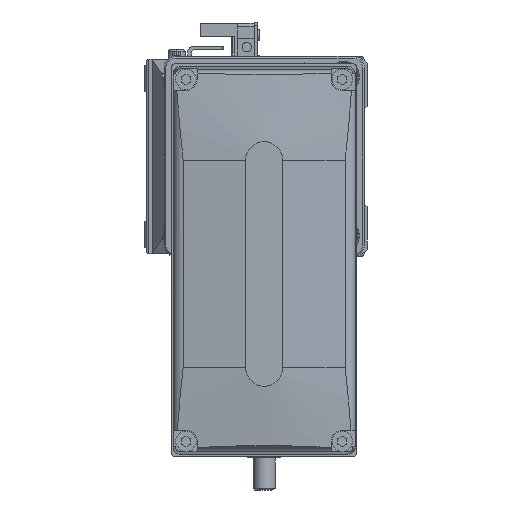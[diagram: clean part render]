
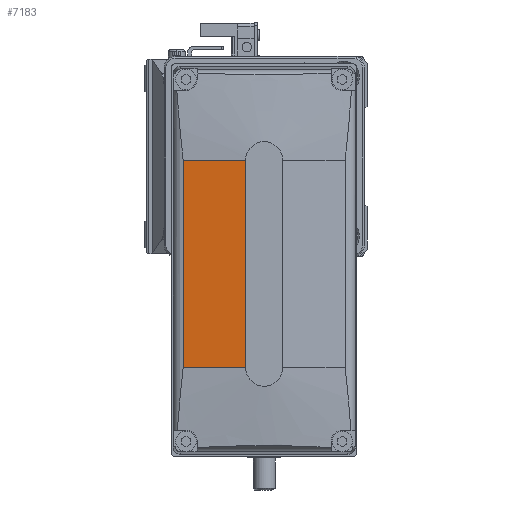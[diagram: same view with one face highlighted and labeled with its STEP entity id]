
A CAD part, left-side view. The second image highlights one B-rep face of the part: STEP entity #7183.
In plain terms, the highlighted planar face has unit normal (-0.996, 0.087, 0) as drawn and (-0.996, 0, -0.087) by its records, which use the part's own axes.
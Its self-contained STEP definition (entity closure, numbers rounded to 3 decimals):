
#446 = CARTESIAN_POINT ( 'NONE',  ( -50., 28., -5. ) ) ;
#723 = VECTOR ( 'NONE', #25677, 1000. ) ;
#874 = VERTEX_POINT ( 'NONE', #5907 ) ;
#1035 = ORIENTED_EDGE ( 'NONE', *, *, #4642, .T. ) ;
#1994 = LINE ( 'NONE', #19103, #36520 ) ;
#2053 = EDGE_CURVE ( 'NONE', #874, #18066, #20660, .T. ) ;
#3019 = CARTESIAN_POINT ( 'NONE',  ( -50., -28., -5. ) ) ;
#4642 = EDGE_CURVE ( 'NONE', #24157, #18066, #6989, .T. ) ;
#4644 = DIRECTION ( 'NONE',  ( 0.087, 0., -0.996 ) ) ;
#5471 = AXIS2_PLACEMENT_3D ( 'NONE', #23461, #15239, #12082 ) ;
#5907 = CARTESIAN_POINT ( 'NONE',  ( -48.525, 28., -21.861 ) ) ;
#6685 = VECTOR ( 'NONE', #33458, 1000. ) ;
#6989 = LINE ( 'NONE', #16797, #22699 ) ;
#7183 = ADVANCED_FACE ( 'NONE', ( #15822 ), #29611, .T. ) ;
#7573 = ORIENTED_EDGE ( 'NONE', *, *, #2053, .F. ) ;
#8346 = LINE ( 'NONE', #10932, #723 ) ;
#10932 = CARTESIAN_POINT ( 'NONE',  ( -48.525, 128., -21.861 ) ) ;
#12082 = DIRECTION ( 'NONE',  ( -0.087, 0., 0.996 ) ) ;
#12856 = EDGE_LOOP ( 'NONE', ( #7573, #18910, #19030, #1035 ) ) ;
#15239 = DIRECTION ( 'NONE',  ( -0.996, 0., -0.087 ) ) ;
#15822 = FACE_OUTER_BOUND ( 'NONE', #12856, .T. ) ;
#16797 = CARTESIAN_POINT ( 'NONE',  ( -50., 128., -5. ) ) ;
#18066 = VERTEX_POINT ( 'NONE', #446 ) ;
#18910 = ORIENTED_EDGE ( 'NONE', *, *, #23972, .F. ) ;
#19030 = ORIENTED_EDGE ( 'NONE', *, *, #28600, .F. ) ;
#19103 = CARTESIAN_POINT ( 'NONE',  ( 43606.406, -28., -499000. ) ) ;
#19298 = CARTESIAN_POINT ( 'NONE',  ( 43606.406, 28., -499000. ) ) ;
#20660 = LINE ( 'NONE', #19298, #6685 ) ;
#22699 = VECTOR ( 'NONE', #28034, 1000. ) ;
#23461 = CARTESIAN_POINT ( 'NONE',  ( -50., 128., -5. ) ) ;
#23972 = EDGE_CURVE ( 'NONE', #24224, #874, #8346, .T. ) ;
#24157 = VERTEX_POINT ( 'NONE', #3019 ) ;
#24224 = VERTEX_POINT ( 'NONE', #30223 ) ;
#25677 = DIRECTION ( 'NONE',  ( 0., 1., 0. ) ) ;
#28034 = DIRECTION ( 'NONE',  ( 0., 1., 0. ) ) ;
#28600 = EDGE_CURVE ( 'NONE', #24157, #24224, #1994, .T. ) ;
#29611 = PLANE ( 'NONE',  #5471 ) ;
#30223 = CARTESIAN_POINT ( 'NONE',  ( -48.525, -28., -21.861 ) ) ;
#33458 = DIRECTION ( 'NONE',  ( -0.087, 0., 0.996 ) ) ;
#36520 = VECTOR ( 'NONE', #4644, 1000. ) ;
